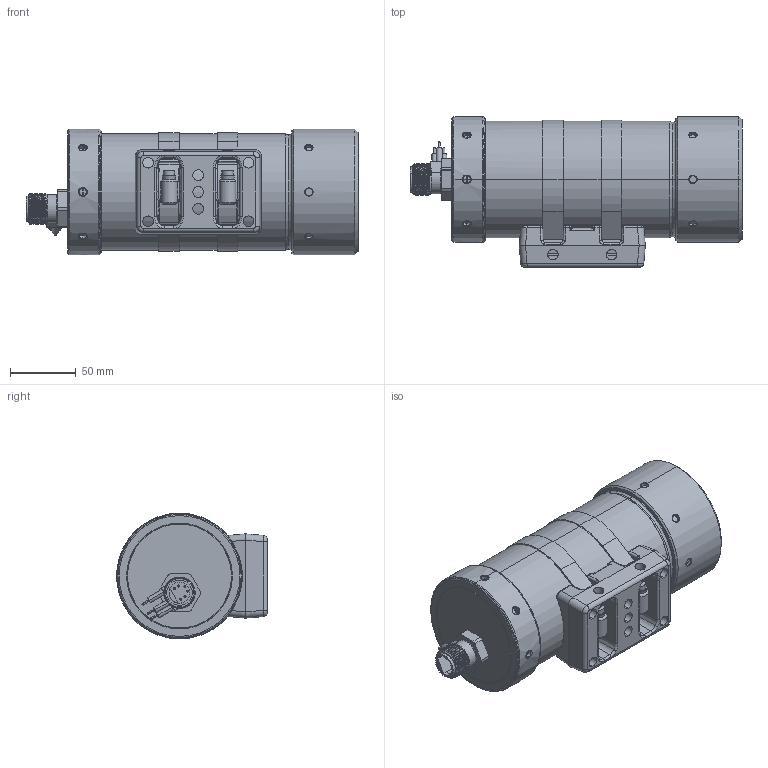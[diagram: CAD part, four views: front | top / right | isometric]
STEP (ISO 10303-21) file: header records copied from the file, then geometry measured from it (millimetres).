
FILE_DESCRIPTION (( 'STEP AP214' ), '1' );
FILE_NAME ('SSC-F-BH4MP-0C-A-20140710a.STEP', '2014-07-10T17:34:43', ( '' ), ( '' ), 'SwSTEP 2.0', 'SolidWorks 2014', '' );
FILE_SCHEMA (( 'AUTOMOTIVE_DESIGN' ));
Length unit declared in the file: inch
Products named in the file (1): SSC-F-BH4MP-0C-A-20140710a
Bounding box: 251.84 x 114.4 x 95.46 mm (x, y, z)
Surface area: 133198.7 mm2 (no closed solid volume)
Topology: 0 solids, 24 shells, 611 faces, 1898 edges, 1259 vertices
Faces by surface type: cylinder 249, plane 115, cone 90, torus 62, bspline 59, sphere 36
Entity records: 39536 total; most frequent: CARTESIAN_POINT 16209, ORIENTED_EDGE 3106, DIRECTION 3076, EDGE_CURVE 1845, VERTEX_POINT 1242, AXIS2_PLACEMENT_3D 1220, CIRCLE 667, EDGE_LOOP 655
